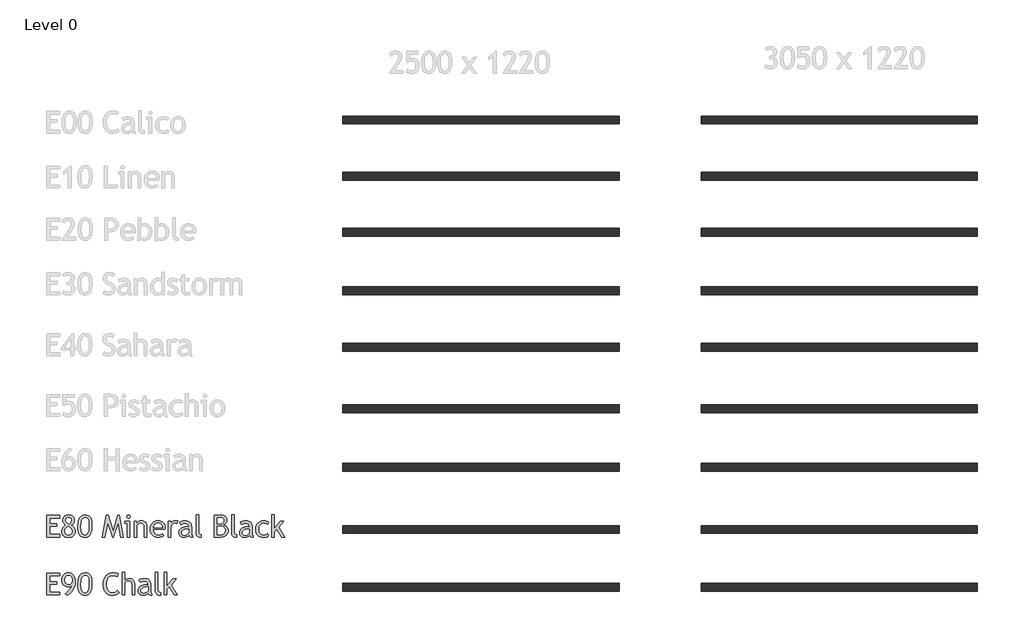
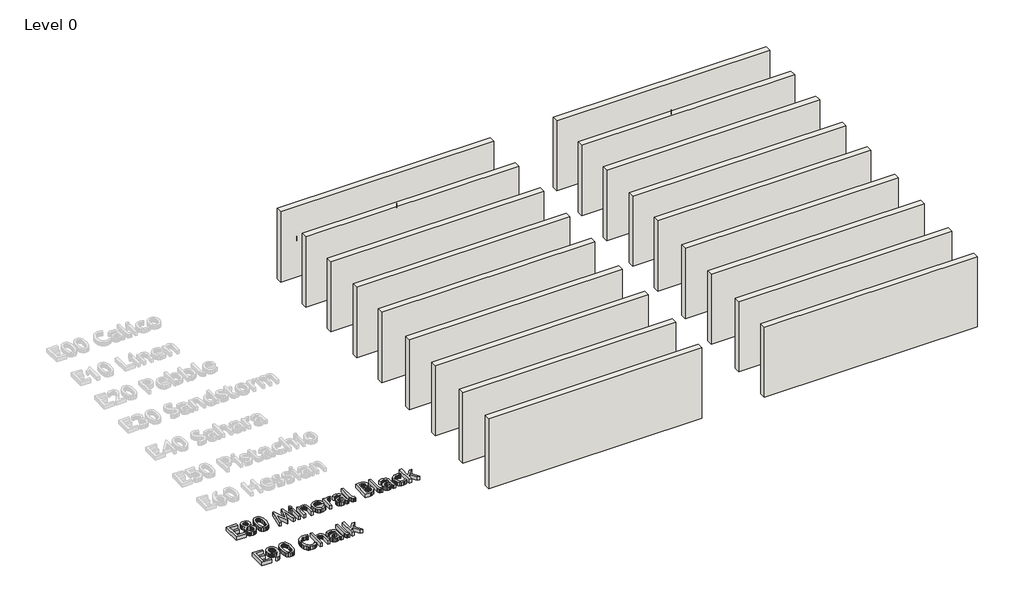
# One storey, part 1 of 5: 18 walls, 2 proxies.
"""IFC4 building model written with IfcOpenShell, lengths in millimetres."""

from ifc_helpers import new_model, si_unit, origin, origin_with_axes, place, context, project, spatial, polyline, outline, extrude, element, save

model = new_model("IFC4")

# Units and contexts
model_context = context("Model", 3, world=origin())
ifc_project = project(units=[si_unit("LENGTHUNIT", "METRE", prefix="MILLI")], contexts=[model_context])

# Site, building, storey
site = spatial("IfcSite", under=ifc_project)
building = spatial("IfcBuilding", under=site)
storey = spatial("IfcBuildingStorey", under=building, Name="Level 0", Elevation=0.0)

# Proxies
placement = place(None, origin())
element("IfcBuildingElementProxy", 1, Name="600mm Arial", ObjectType="600mm Arial", at=placement, inside=storey, context=model_context, shape_type="SweptSolid", body=[
    extrude(outline(polyline([(-18103.2260811, -7793.0220667), (-18103.2260811, -7970.9881684), (-17877.8023522, -7970.9881684), (-17877.8023522, -8054.0390158), (-18103.2260811, -8054.0390158), (-18103.2260811, -8303.1915582), (-17794.7515048, -8303.1915582), (-17794.7515048, -8386.2424056), (-18198.1413353, -8386.2424056), (-18198.1413353, -7709.9712192), (-17794.7515048, -7709.9712192), (-17794.7515048, -7793.0220667), (-18103.2260811, -7793.0220667)])), origin_with_axes(), (0.0, 0.0, 1.0), 150.0),
    extrude(outline(polyline([(-17569.327776, -8398.1068124), (-17616.7854031, -8350.6491853), (-17594.9625416, -8337.9273898), (-17568.6094232, -8315.7047997), (-17502.3124158, -8242.7572362), (-17468.8684606, -8199.3895852), (-17443.894116, -8161.2357849), (-17427.3893822, -8128.2958352), (-17419.354259, -8100.5697362), (-17440.1980752, -8116.5472918), (-17464.9117272, -8127.9598315), (-17493.4952151, -8134.8073553), (-17525.9485387, -8137.0898633), (-17568.499353, -8133.48072), (-17606.6126012, -8122.6532902), (-17640.2882831, -8104.6075738), (-17669.5263989, -8079.3435709), (-17693.1683149, -8047.7534292), (-17710.0553978, -8010.7292965), (-17720.1876475, -7968.2711729), (-17723.5650641, -7920.3790582), (-17720.1065432, -7872.7650155), (-17709.7309804, -7830.0288198), (-17692.4383758, -7792.1704711), (-17668.2287294, -7759.1899692), (-17638.8052323, -7732.4660881), (-17605.8710758, -7713.3776016), (-17569.4262598, -7701.9245097), (-17529.4707844, -7698.1068124), (-17477.6364194, -7702.7181737), (-17432.713303, -7716.5522573), (-17394.7014353, -7739.6090635), (-17363.6008162, -7771.8885921), (-17339.4114459, -7813.3908431), (-17322.1333242, -7864.1158167), (-17311.7664512, -7924.0635126), (-17308.3108268, -7993.2339311), (-17313.542057, -8054.9601294), (-17329.2357474, -8117.4162669), (-17355.3918981, -8180.6023434), (-17392.010509, -8244.518359), (-17434.480219, -8302.3283762), (-17478.1896669, -8347.1964575), (-17523.1388525, -8379.1226029), (-17569.327776, -8398.1068124)]), holes=[polyline([(-17403.2260811, -7922.9743972), (-17405.0741015, -7889.7360994), (-17410.6181626, -7860.9295746), (-17419.8582646, -7836.5548229), (-17432.7944073, -7816.6118442), (-17449.4265909, -7801.1006386), (-17469.7548152, -7790.021206), (-17493.7790803, -7783.3735464), (-17521.4993861, -7781.1576599), (-17545.031232, -7783.4691337), (-17565.9445662, -7790.403555), (-17584.2393888, -7801.9609239), (-17599.9156997, -7818.1412404), (-17612.4868729, -7838.1102883), (-17621.4662823, -7861.0338516), (-17626.853928, -7886.9119303), (-17628.6498099, -7915.7445243), (-17626.749651, -7945.6720269), (-17621.0491743, -7972.4248739), (-17611.5483798, -7996.0030651), (-17598.2472675, -8016.4066006), (-17581.9568808, -8032.8707822), (-17563.4882633, -8044.630912), (-17542.8414147, -8051.6869899), (-17520.0163353, -8054.0390158), (-17492.6436195, -8051.9911311), (-17468.9205991, -8045.8474771), (-17448.8472741, -8035.6080538), (-17432.4236446, -8021.2728612), (-17419.6497106, -8002.8418992), (-17410.5254719, -7980.3151678), (-17405.0509288, -7953.6926672), (-17403.2260811, -7922.9743972)])]), origin_with_axes(), (0.0, 0.0, 1.0), 150.0),
    extrude(outline(polyline([(-17225.2599794, -8028.8271514), (-17221.5581454, -7959.0716231), (-17210.4526436, -7896.0709279), (-17191.9434738, -7839.8250659), (-17166.0306361, -7790.334037), (-17133.4093107, -7749.9846262), (-17114.8436575, -7734.133072), (-17094.7746775, -7721.1636186), (-17073.2023705, -7711.0762659), (-17050.1267365, -7703.871014), (-16999.4654878, -7698.1068124), (-16949.5747304, -7702.9151413), (-16906.3113565, -7717.3401281), (-16869.675366, -7741.3817727), (-16839.666759, -7775.0400751), (-16816.3087082, -7820.6786477), (-16799.6243861, -7880.6611027), (-16789.6137929, -7954.9874401), (-16786.2769285, -8043.6576599), (-16789.7760016, -8121.7611424), (-16800.2732209, -8191.0821832), (-16817.7685864, -8251.6207822), (-16842.262098, -8303.3769395), (-16873.4872701, -8344.8212589), (-16891.5242968, -8361.1029558), (-16911.1776171, -8374.4243442), (-16932.4472311, -8384.785424), (-16955.3331388, -8392.1861954), (-17005.9538353, -8398.1068124), (-17056.6382566, -8393.3274493), (-17100.7995715, -8378.9893601), (-17138.4377799, -8355.0925447), (-17169.5528819, -8321.6370031), (-17182.6092329, -8300.3340784), (-17193.924737, -8274.6602089), (-17211.333205, -8210.1996355), (-17221.7782858, -8128.255283), (-17225.2599794, -8028.8271514)]), holes=[polyline([(-17130.3447251, -8037.3546938), (-17128.4996013, -8102.4409292), (-17122.9642299, -8158.8489999), (-17113.7386109, -8206.5789059), (-17100.8227442, -8245.6306472), (-17084.2166299, -8276.0042237), (-17063.920268, -8297.6996355), (-17039.9336585, -8310.7168826), (-17012.2568014, -8315.055965), (-16980.7477641, -8311.2093018), (-16953.6994656, -8299.6693124), (-16931.111906, -8280.4359967), (-16912.9850853, -8253.5093548), (-16899.0756904, -8216.9544687), (-16889.1404084, -8168.8364205), (-16883.1792392, -8109.1552102), (-16881.1921828, -8037.9108378), (-16884.2509751, -7945.7994766), (-16893.4273522, -7881.9124268), (-16909.4164942, -7838.2087722), (-16920.2265445, -7820.9103744), (-16932.9135811, -7806.6475963), (-16947.4428448, -7795.4957491), (-16963.7795768, -7787.530144), (-16981.923777, -7782.7507809), (-17001.8754455, -7781.1576599), (-17031.9854329, -7785.1607385), (-17058.0807553, -7797.1699745), (-17080.1614128, -7817.1853678), (-17098.2274052, -7845.2069184), (-17112.2787327, -7881.2346262), (-17122.3153951, -7925.2684914), (-17128.3373926, -7977.308514), (-17130.3447251, -8037.3546938)])]), origin_with_axes(), (0.0, 0.0, 1.0), 150.0),
    extrude(outline(polyline([(-15967.6328607, -7733.7000328), (-15999.7038353, -7813.0432531), (-16025.8889518, -7799.0933061), (-16058.6551065, -7789.1290582), (-16098.0022993, -7783.1505095), (-16143.9305302, -7781.1576599), (-16187.7152892, -7785.9544025), (-16226.9350323, -7800.3446302), (-16261.5897596, -7824.3283431), (-16291.6794709, -7857.9055412), (-16316.0107739, -7899.0486159), (-16333.390276, -7945.7299586), (-16343.8179772, -7997.9495693), (-16347.2938777, -8055.707448), (-16343.7716319, -8110.8062629), (-16333.2048946, -8160.4247414), (-16315.5936658, -8204.5628837), (-16290.9379455, -8243.2206895), (-16260.7091981, -8274.6486225), (-16226.3788883, -8297.0971461), (-16187.9470159, -8310.5662603), (-16145.4135811, -8315.055965), (-16099.5664545, -8310.6183988), (-16059.3502866, -8297.3057001), (-16024.7650774, -8275.1178691), (-15995.8108268, -8244.0549056), (-15943.9040472, -8315.055965), (-15987.5265975, -8351.3907107), (-16037.0118332, -8377.3441006), (-16092.3597543, -8392.9161345), (-16153.5703607, -8398.1068124), (-16217.1156136, -8392.1282637), (-16246.2161416, -8384.6550778), (-16273.5352707, -8374.1926175), (-16299.0730007, -8360.7408829), (-16322.8293319, -8344.2998739), (-16344.804264, -8324.8695905), (-16364.9977972, -8302.4500328), (-16398.7777561, -8250.8097388), (-16422.9062982, -8191.5456366), (-16437.3834235, -8124.6577261), (-16442.2091319, -8050.1460073), (-16437.0126608, -7977.6155518), (-16421.4232474, -7911.4807531), (-16395.4408917, -7851.7416112), (-16359.0655938, -7798.398126), (-16337.5222526, -7774.8923494), (-16314.4639982, -7754.5206763), (-16289.8908305, -7737.2831068), (-16263.8027495, -7723.1796408), (-16236.1997553, -7712.2102784), (-16207.0818477, -7704.3750195), (-16176.449027, -7699.6738642), (-16144.3012929, -7698.1068124), (-16090.9230487, -7700.3313887), (-16043.685562, -7707.0051175), (-16002.5888326, -7718.1279989), (-15967.6328607, -7733.7000328)])), origin_with_axes(), (0.0, 0.0, 1.0), 150.0),
    extrude(outline(polyline([(-15540.5142167, -8386.2424056), (-15540.5142167, -8068.8695243), (-15542.2811327, -8042.0992979), (-15547.5818808, -8018.3299321), (-15556.4164611, -7997.5614271), (-15568.7848734, -7979.7937828), (-15584.3627005, -7965.5599705), (-15602.8255249, -7955.3929618), (-15624.1733467, -7949.2927565), (-15648.4061658, -7947.2593548), (-15681.6126012, -7952.0329247), (-15714.8653819, -7966.3536345), (-15744.2714995, -7987.0236556), (-15765.9379455, -8010.8451599), (-15765.9379455, -8386.2424056), (-15848.9887929, -8386.2424056), (-15848.9887929, -7686.2424056), (-15765.9379455, -7686.2424056), (-15765.9379455, -7940.0294819), (-15742.7189306, -7915.0029989), (-15708.6551065, -7894.4256684), (-15668.5200429, -7880.6611027), (-15627.0873099, -7876.0729141), (-15589.5533785, -7879.3460537), (-15556.2948046, -7889.1654724), (-15527.3115882, -7905.5311702), (-15502.6037294, -7928.4431472), (-15482.8548218, -7957.0208418), (-15468.7484592, -7990.3836927), (-15460.2846417, -8028.5316999), (-15457.4633692, -8071.4648633), (-15457.4633692, -8386.2424056), (-15540.5142167, -8386.2424056)])), origin_with_axes(), (0.0, 0.0, 1.0), 150.0),
    extrude(outline(polyline([(-15034.423115, -8326.9203717), (-15065.3818014, -8358.0644395), (-15103.5703607, -8380.3102023), (-15148.9887929, -8393.6576599), (-15201.637098, -8398.1068124), (-15230.8462479, -8395.4187828), (-15258.0393755, -8387.3546938), (-15283.216481, -8373.9145455), (-15306.3775641, -8355.0983378), (-15325.7615021, -8332.2848447), (-15339.6071722, -8306.85284), (-15347.9145742, -8278.8023235), (-15350.6837082, -8248.1332955), (-15346.4025575, -8211.3350963), (-15333.5591054, -8177.5029989), (-15312.153352, -8146.6370031), (-15282.1852972, -8118.737109), (-15245.5782725, -8095.6223712), (-15204.2556097, -8079.1118442), (-15158.2173085, -8069.205528), (-15107.4633692, -8065.9034226), (-15076.7827548, -8068.8695243), (-15042.2091319, -8077.7678294), (-15043.9702548, -8049.960626), (-15049.2536234, -8025.8610497), (-15058.0592378, -8005.4691006), (-15070.387098, -7988.7847785), (-15086.2372039, -7975.8080836), (-15105.6095556, -7966.5390158), (-15128.5041531, -7960.9775751), (-15154.9209963, -7959.1237616), (-15195.7048946, -7961.3483378), (-15231.4834963, -7968.0220667), (-15262.2568014, -7979.144948), (-15288.0248099, -7994.7169819), (-15326.9548946, -7923.5305412), (-15296.4596616, -7905.4326864), (-15256.1392167, -7890.0692065), (-15211.8794179, -7879.5719872), (-15169.5661234, -7876.0729141), (-15118.1054177, -7879.1722587), (-15074.2105885, -7888.4702923), (-15037.8816359, -7903.967015), (-15009.1185599, -7925.6624268), (-14987.2609394, -7954.1010855), (-14971.6483533, -7989.8275487), (-14962.2808017, -8032.8418164), (-14959.1582844, -8083.1438887), (-14959.1582844, -8262.7784226), (-14956.9337082, -8292.9492383), (-14950.2599794, -8317.6513039), (-14939.137098, -8336.8846196), (-14923.5650641, -8350.6491853), (-14923.5650641, -8398.1068124), (-14967.4772728, -8393.9820773), (-14998.7372039, -8381.6078717), (-15020.1255779, -8359.6865264), (-15034.423115, -8326.9203717)]), holes=[polyline([(-15042.2091319, -8137.0898633), (-15105.0534116, -8137.0898633), (-15139.2794444, -8139.1985762), (-15170.2149582, -8145.524715), (-15197.8599529, -8156.0682796), (-15222.2144285, -8170.82927), (-15242.0849926, -8188.4752579), (-15256.2782527, -8207.6738145), (-15264.7942087, -8228.4249401), (-15267.6328607, -8250.7286345), (-15266.0976714, -8268.5860729), (-15261.4921033, -8284.0625195), (-15253.8161565, -8297.1579744), (-15243.0698311, -8307.8724374), (-15229.2531269, -8316.2059087), (-15212.366044, -8322.1583882), (-15169.3807421, -8326.9203717), (-15134.5290472, -8322.4712192), (-15101.7165472, -8309.1237616), (-15070.9432421, -8286.8779989), (-15042.2091319, -8255.7339311), (-15042.2091319, -8137.0898633)])]), origin_with_axes(), (0.0, 0.0, 1.0), 150.0),
    extrude(outline(polyline([(-14816.7854031, -8247.7625328), (-14816.7854031, -7686.2424056), (-14733.7345556, -7686.2424056), (-14733.7345556, -8229.5951599), (-14727.9877336, -8265.0725169), (-14720.8042061, -8279.6655055), (-14710.7472675, -8292.1613675), (-14698.373062, -8302.1777539), (-14684.2377336, -8309.3323156), (-14650.6837082, -8315.055965), (-14650.6837082, -8398.1068124), (-14689.6137929, -8395.7576831), (-14723.3531997, -8388.7102949), (-14751.9019285, -8376.9646481), (-14775.2599794, -8360.5207425), (-14793.4273522, -8339.3785782), (-14806.4040472, -8313.5381551), (-14814.1900641, -8282.9994733), (-14816.7854031, -8247.7625328)])), origin_with_axes(), (0.0, 0.0, 1.0), 150.0),
    extrude(outline(polyline([(-14223.5650641, -8386.2424056), (-14382.9930302, -8136.9044819), (-14460.8531997, -8216.4330836), (-14460.8531997, -8386.2424056), (-14543.9040472, -8386.2424056), (-14543.9040472, -7686.2424056), (-14460.8531997, -7686.2424056), (-14460.8531997, -8121.5178294), (-14271.0226912, -7887.9373209), (-14164.2430302, -7887.9373209), (-14325.1540472, -8077.2116853), (-14128.6498099, -8386.2424056), (-14223.5650641, -8386.2424056)])), origin_with_axes(), (0.0, 0.0, 1.0), 150.0),
])
element("IfcBuildingElementProxy", 2, Name="600mm Arial", ObjectType="600mm Arial", at=placement, inside=storey, context=model_context, shape_type="SweptSolid", body=[
    extrude(outline(polyline([(-18103.2260811, -5993.0220667), (-18103.2260811, -6170.9881684), (-17877.8023522, -6170.9881684), (-17877.8023522, -6254.0390158), (-18103.2260811, -6254.0390158), (-18103.2260811, -6503.1915582), (-17794.7515048, -6503.1915582), (-17794.7515048, -6586.2424056), (-18198.1413353, -6586.2424056), (-18198.1413353, -5909.9712192), (-17794.7515048, -5909.9712192), (-17794.7515048, -5993.0220667), (-18103.2260811, -5993.0220667)])), origin_with_axes(), (0.0, 0.0, 1.0), 150.0),
    extrude(outline(polyline([(-17602.140276, -6211.7720667), (-17641.2325694, -6184.0575539), (-17672.4925005, -6147.2593548), (-17684.4553912, -6126.4271249), (-17693.000313, -6105.2704777), (-17698.1272662, -6083.7894131), (-17699.8362505, -6061.9839311), (-17696.632629, -6026.1358114), (-17687.0217643, -5994.2270455), (-17671.0036565, -5966.2576334), (-17648.5783056, -5942.2275751), (-17621.0781401, -5922.9247414), (-17589.8355885, -5909.1370031), (-17554.8506507, -5900.8643601), (-17516.1233268, -5898.1068124), (-17474.7485254, -5900.8643601), (-17438.3095027, -5909.1370031), (-17406.8062585, -5922.9247414), (-17380.2387929, -5942.2275751), (-17359.1516637, -5966.2808061), (-17344.0894285, -5994.3197362), (-17335.0520874, -6026.3443654), (-17332.0396404, -6062.3546938), (-17333.8471086, -6084.7047335), (-17339.2695133, -6107.2633273), (-17348.3068544, -6130.030475), (-17360.9591319, -6153.0061768), (-17392.1958904, -6193.094895), (-17428.0671828, -6221.0411345), (-17399.9992868, -6238.8174685), (-17375.673777, -6257.9436106), (-17355.0906534, -6278.4195607), (-17338.2499158, -6300.2453188), (-17325.1515644, -6323.4208849), (-17315.7955991, -6347.9462589), (-17310.1820199, -6373.821441), (-17308.3108268, -6401.0464311), (-17311.8272794, -6445.312023), (-17322.3766372, -6484.3058325), (-17339.9589002, -6518.0278598), (-17364.5740683, -6546.4781048), (-17395.3184076, -6569.0656644), (-17431.2881838, -6585.1996355), (-17472.483397, -6594.8800182), (-17518.9040472, -6598.1068124), (-17566.871473, -6595.027744), (-17608.4432421, -6585.7905386), (-17643.6193544, -6570.3951963), (-17672.3998099, -6548.8417171), (-17694.7846086, -6521.130101), (-17710.7737505, -6487.2603479), (-17720.3672357, -6447.2324579), (-17723.5650641, -6401.0464311), (-17721.38104, -6372.7062563), (-17714.8289677, -6344.5978082), (-17703.9088472, -6316.7210868), (-17688.6206785, -6289.0760921), (-17670.1115088, -6263.597742), (-17649.5283851, -6242.2209544), (-17626.8713075, -6224.9457293), (-17602.140276, -6211.7720667)]), holes=[polyline([(-17489.4284116, -6183.5941006), (-17462.0962479, -6154.1416376), (-17442.5732739, -6124.179376), (-17430.8594894, -6093.7073156), (-17426.9548946, -6062.7254565), (-17428.5016703, -6045.0389165), (-17433.1419974, -6029.2409491), (-17440.8758758, -6015.3315542), (-17451.7033056, -6003.3107319), (-17464.9986248, -5993.6187629), (-17480.1361711, -5986.6959279), (-17515.9379455, -5981.1576599), (-17554.8680302, -5986.3135788), (-17570.1619921, -5992.7584775), (-17582.6752336, -6001.7813357), (-17592.4077548, -6013.3821534), (-17599.3595556, -6027.5609305), (-17604.9209963, -6063.6523633), (-17603.1164247, -6078.9086695), (-17597.7027098, -6094.0896646), (-17576.0478501, -6124.2257213), (-17539.9564174, -6154.0605333), (-17489.4284116, -6183.5941006)]), polyline([(-17527.6169709, -6251.4436768), (-17571.8188379, -6280.9888304), (-17603.3916001, -6315.3075539), (-17614.4420669, -6334.2570044), (-17622.3352574, -6354.3998474), (-17627.0711718, -6375.7360828), (-17628.6498099, -6398.2657107), (-17626.7380646, -6422.0988013), (-17621.0028289, -6443.9158696), (-17611.4441028, -6463.7169157), (-17598.0618861, -6481.5019395), (-17581.6440498, -6496.1818257), (-17562.9784645, -6506.6674586), (-17542.0651303, -6512.9588384), (-17518.9040472, -6515.055965), (-17494.8044709, -6513.0051837), (-17472.9294709, -6506.85284), (-17453.2790472, -6496.5989337), (-17435.8531997, -6482.243465), (-17421.5788353, -6464.6901678), (-17411.3828607, -6444.8427764), (-17405.265276, -6422.7012907), (-17403.2260811, -6398.2657107), (-17408.7643491, -6362.4407637), (-17425.3791531, -6328.7477023), (-17440.0764187, -6311.6810312), (-17462.0151436, -6293.1081366), (-17527.6169709, -6251.4436768)])]), origin_with_axes(), (0.0, 0.0, 1.0), 150.0),
    extrude(outline(polyline([(-17225.2599794, -6228.8271514), (-17221.5581454, -6159.0716231), (-17210.4526436, -6096.0709279), (-17191.9434738, -6039.8250659), (-17166.0306361, -5990.334037), (-17133.4093107, -5949.9846262), (-17114.8436575, -5934.133072), (-17094.7746775, -5921.1636186), (-17073.2023705, -5911.0762659), (-17050.1267365, -5903.871014), (-16999.4654878, -5898.1068124), (-16949.5747304, -5902.9151413), (-16906.3113565, -5917.3401281), (-16869.675366, -5941.3817727), (-16839.666759, -5975.0400751), (-16816.3087082, -6020.6786477), (-16799.6243861, -6080.6611027), (-16789.6137929, -6154.9874401), (-16786.2769285, -6243.6576599), (-16789.7760016, -6321.7611424), (-16800.2732209, -6391.0821832), (-16817.7685864, -6451.6207822), (-16842.262098, -6503.3769395), (-16873.4872701, -6544.8212589), (-16891.5242968, -6561.1029558), (-16911.1776171, -6574.4243442), (-16932.4472311, -6584.785424), (-16955.3331388, -6592.1861954), (-17005.9538353, -6598.1068124), (-17056.6382566, -6593.3274493), (-17100.7995715, -6578.9893601), (-17138.4377799, -6555.0925447), (-17169.5528819, -6521.6370031), (-17182.6092329, -6500.3340784), (-17193.924737, -6474.6602089), (-17211.333205, -6410.1996355), (-17221.7782858, -6328.255283), (-17225.2599794, -6228.8271514)]), holes=[polyline([(-17130.3447251, -6237.3546938), (-17128.4996013, -6302.4409292), (-17122.9642299, -6358.8489999), (-17113.7386109, -6406.5789059), (-17100.8227442, -6445.6306472), (-17084.2166299, -6476.0042237), (-17063.920268, -6497.6996355), (-17039.9336585, -6510.7168826), (-17012.2568014, -6515.055965), (-16980.7477641, -6511.2093018), (-16953.6994656, -6499.6693124), (-16931.111906, -6480.4359967), (-16912.9850853, -6453.5093548), (-16899.0756904, -6416.9544687), (-16889.1404084, -6368.8364205), (-16883.1792392, -6309.1552102), (-16881.1921828, -6237.9108378), (-16884.2509751, -6145.7994766), (-16893.4273522, -6081.9124268), (-16909.4164942, -6038.2087722), (-16920.2265445, -6020.9103744), (-16932.9135811, -6006.6475963), (-16947.4428448, -5995.4957491), (-16963.7795768, -5987.530144), (-16981.923777, -5982.7507809), (-17001.8754455, -5981.1576599), (-17031.9854329, -5985.1607385), (-17058.0807553, -5997.1699745), (-17080.1614128, -6017.1853678), (-17098.2274052, -6045.2069184), (-17112.2787327, -6081.2346262), (-17122.3153951, -6125.2684914), (-17128.3373926, -6177.308514), (-17130.3447251, -6237.3546938)])]), origin_with_axes(), (0.0, 0.0, 1.0), 150.0),
    extrude(outline(polyline([(-15896.44642, -6586.2424056), (-15973.5650641, -6147.2593548), (-16121.8701489, -6598.1068124), (-16145.5989624, -6598.1068124), (-16293.9040472, -6147.2593548), (-16382.887098, -6586.2424056), (-16465.9379455, -6586.2424056), (-16335.4294709, -5909.9712192), (-16287.9718438, -5909.9712192), (-16127.8023522, -6408.2763039), (-15991.3616743, -5909.9712192), (-15943.9040472, -5909.9712192), (-15813.3955726, -6586.2424056), (-15896.44642, -6586.2424056)])), origin_with_axes(), (0.0, 0.0, 1.0), 150.0),
    extrude(outline(polyline([(-15694.7515048, -6586.2424056), (-15694.7515048, -6159.1237616), (-15765.9379455, -6159.1237616), (-15765.9379455, -6087.9373209), (-15611.7006573, -6087.9373209), (-15611.7006573, -6586.2424056), (-15694.7515048, -6586.2424056)])), origin_with_axes(), (0.0, 0.0, 1.0), 150.0),
    extrude(outline(polyline([(-15653.4114624, -5898.1068124), (-15632.8109592, -5902.0229936), (-15615.5009751, -5913.771537), (-15603.7524317, -5930.9888304), (-15599.8362505, -5951.3112616), (-15603.7524317, -5971.9117648), (-15615.5009751, -5989.2217489), (-15632.8109592, -6000.9702923), (-15653.4114624, -6004.8864734), (-15673.7338936, -6000.9702923), (-15690.951187, -5989.2217489), (-15702.6997304, -5971.9117648), (-15706.6159116, -5951.3112616), (-15702.7460758, -5930.7571037), (-15691.1365683, -5913.5861556), (-15673.9656203, -5901.9766482), (-15653.4114624, -5898.1068124)])), origin_with_axes(), (0.0, 0.0, 1.0), 150.0),
    extrude(outline(polyline([(-15160.8531997, -6586.2424056), (-15160.8531997, -6292.4129565), (-15162.3999754, -6255.1165449), (-15167.0403025, -6223.8682001), (-15174.7741809, -6198.6679221), (-15185.6016107, -6179.5157107), (-15200.0671496, -6165.403555), (-15218.7153554, -6155.3234438), (-15241.546228, -6149.275377), (-15268.5597675, -6147.2593548), (-15300.4453607, -6151.8475434), (-15333.8140048, -6165.612109), (-15363.9848205, -6186.0967489), (-15386.2769285, -6210.8451599), (-15386.2769285, -6586.2424056), (-15469.327776, -6586.2424056), (-15469.327776, -6087.9373209), (-15409.449598, -6087.9373209), (-15381.6423946, -6151.8938887), (-15356.6043252, -6118.7222123), (-15324.683973, -6095.0281578), (-15285.8813379, -6080.811725), (-15240.19642, -6076.0729141), (-15202.1353104, -6079.2012245), (-15169.1490154, -6088.5861556), (-15141.237535, -6104.2277075), (-15118.4008692, -6126.1258802), (-15100.639018, -6154.2806737), (-15087.9519815, -6188.6920878), (-15080.3397596, -6229.3601228), (-15077.8023522, -6276.2847785), (-15077.8023522, -6586.2424056), (-15160.8531997, -6586.2424056)])), origin_with_axes(), (0.0, 0.0, 1.0), 150.0),
    extrude(outline(polyline([(-14515.3553183, -6348.95427), (-14876.107437, -6348.95427), (-14873.1181626, -6390.7809385), (-14864.1503395, -6427.4632743), (-14849.2039677, -6459.0012775), (-14828.2790472, -6485.394948), (-14805.5582447, -6503.5623209), (-14779.8481679, -6516.5390158), (-14751.1488168, -6524.3250328), (-14719.4601912, -6526.9203717), (-14683.1254455, -6523.95427), (-14649.9421828, -6515.055965), (-14619.9104031, -6500.2254565), (-14593.0301065, -6479.4627446), (-14555.7684539, -6538.7847785), (-14581.8145344, -6559.362109), (-14618.798115, -6576.9733378), (-14675.0613565, -6592.8234438), (-14737.4421828, -6598.1068124), (-14782.8374423, -6594.0863543), (-14824.6641107, -6582.0249798), (-14862.922188, -6561.922689), (-14897.6116743, -6533.7794819), (-14929.7289942, -6495.2317462), (-14952.669937, -6450.5895984), (-14966.4345027, -6399.8530386), (-14971.0226912, -6343.0220667), (-14966.307053, -6283.8158961), (-14952.1601383, -6230.7736556), (-14928.5819471, -6183.8953453), (-14895.5724794, -6143.180965), (-14860.2805037, -6113.8211927), (-14821.8833904, -6092.8499268), (-14780.3811393, -6080.2671673), (-14735.7737505, -6076.0729141), (-14684.9329137, -6079.9079909), (-14639.9315895, -6091.4132213), (-14600.7697781, -6110.5886053), (-14567.4474794, -6137.4341429), (-14541.5751939, -6169.3197362), (-14523.09499, -6206.0252446), (-14512.0068676, -6247.5506684), (-14508.3108268, -6293.8960073), (-14510.0719497, -6322.5837722), (-14515.3553183, -6348.95427)]), holes=[polyline([(-14729.1000217, -6147.2593548), (-14758.3671033, -6149.9010391), (-14785.1778819, -6157.8260921), (-14809.5323575, -6171.0345137), (-14831.4305302, -6189.5263039), (-14849.0301727, -6210.8683325), (-14862.3428713, -6234.6666641), (-14871.3686261, -6260.9212987), (-14876.107437, -6289.6322362), (-14591.3616743, -6289.6322362), (-14593.5167325, -6261.1993707), (-14599.9819073, -6235.2228082), (-14610.7571986, -6211.7025487), (-14625.8426065, -6190.6385921), (-14646.5473867, -6171.6601758), (-14670.6585493, -6158.1041641), (-14698.1760943, -6149.9705571), (-14729.1000217, -6147.2593548)])]), origin_with_axes(), (0.0, 0.0, 1.0), 150.0),
    extrude(outline(polyline([(-14153.8616743, -6167.2805412), (-14182.9202018, -6152.2646514), (-14212.2568014, -6147.2593548), (-14235.22671, -6149.9068323), (-14256.6788088, -6157.8492648), (-14276.6130977, -6171.0866522), (-14295.0295768, -6189.6189946), (-14310.4799542, -6211.8821368), (-14321.515938, -6236.3119237), (-14328.1375284, -6262.9083551), (-14330.3447251, -6291.6714311), (-14330.3447251, -6586.2424056), (-14413.3955726, -6586.2424056), (-14413.3955726, -6087.9373209), (-14330.3447251, -6087.9373209), (-14330.3447251, -6159.1237616), (-14303.0125615, -6122.7890158), (-14269.7713671, -6096.835626), (-14230.621142, -6081.2635921), (-14185.5618861, -6076.0729141), (-14116.7854031, -6084.0443124), (-14153.8616743, -6167.2805412)])), origin_with_axes(), (0.0, 0.0, 1.0), 150.0),
    extrude(outline(polyline([(-13764.9315895, -6526.9203717), (-13795.890276, -6558.0644395), (-13834.0788353, -6580.3102023), (-13879.4972675, -6593.6576599), (-13932.1455726, -6598.1068124), (-13961.3547225, -6595.4187828), (-13988.5478501, -6587.3546938), (-14013.7249555, -6573.9145455), (-14036.8860387, -6555.0983378), (-14056.2699767, -6532.2848447), (-14070.1156467, -6506.85284), (-14078.4230487, -6478.8023235), (-14081.1921828, -6448.1332955), (-14076.9110321, -6411.3350963), (-14064.06758, -6377.5029989), (-14042.6618266, -6346.6370031), (-14012.6937717, -6318.737109), (-13976.0867471, -6295.6223712), (-13934.7640842, -6279.1118442), (-13888.7257831, -6269.205528), (-13837.9718438, -6265.9034226), (-13807.2912294, -6268.8695243), (-13772.7176065, -6277.7678294), (-13774.4787294, -6249.960626), (-13779.762098, -6225.8610497), (-13788.5677124, -6205.4691006), (-13800.8955726, -6188.7847785), (-13816.7456785, -6175.8080836), (-13836.1180302, -6166.5390158), (-13859.0126277, -6160.9775751), (-13885.4294709, -6159.1237616), (-13926.2133692, -6161.3483378), (-13961.9919709, -6168.0220667), (-13992.765276, -6179.144948), (-14018.5332844, -6194.7169819), (-14057.4633692, -6123.5305412), (-14026.9681361, -6105.4326864), (-13986.6476912, -6090.0692065), (-13942.3878925, -6079.5719872), (-13900.074598, -6076.0729141), (-13848.6138922, -6079.1722587), (-13804.719063, -6088.4702923), (-13768.3901105, -6103.967015), (-13739.6270344, -6125.6624268), (-13717.769414, -6154.1010855), (-13702.1568279, -6189.8275487), (-13692.7892762, -6232.8418164), (-13689.666759, -6283.1438887), (-13689.666759, -6462.7784226), (-13687.4421828, -6492.9492383), (-13680.7684539, -6517.6513039), (-13669.6455726, -6536.8846196), (-13654.0735387, -6550.6491853), (-13654.0735387, -6598.1068124), (-13697.9857474, -6593.9820773), (-13729.2456785, -6581.6078717), (-13750.6340525, -6559.6865264), (-13764.9315895, -6526.9203717)]), holes=[polyline([(-13772.7176065, -6337.0898633), (-13835.5618861, -6337.0898633), (-13869.787919, -6339.1985762), (-13900.7234328, -6345.524715), (-13928.3684275, -6356.0682796), (-13952.7229031, -6370.82927), (-13972.5934672, -6388.4752579), (-13986.7867272, -6407.6738145), (-13995.3026833, -6428.4249401), (-13998.1413353, -6450.7286345), (-13996.6061459, -6468.5860729), (-13992.0005779, -6484.0625195), (-13984.3246311, -6497.1579744), (-13973.5783056, -6507.8724374), (-13959.7616015, -6516.2059087), (-13942.8745186, -6522.1583882), (-13899.8892167, -6526.9203717), (-13865.0375217, -6522.4712192), (-13832.2250217, -6509.1237616), (-13801.4517167, -6486.8779989), (-13772.7176065, -6455.7339311), (-13772.7176065, -6337.0898633)])]), origin_with_axes(), (0.0, 0.0, 1.0), 150.0),
    extrude(outline(polyline([(-13547.2938777, -6447.7625328), (-13547.2938777, -5886.2424056), (-13464.2430302, -5886.2424056), (-13464.2430302, -6429.5951599), (-13458.4962082, -6465.0725169), (-13451.3126806, -6479.6655055), (-13441.2557421, -6492.1613675), (-13428.8815366, -6502.1777539), (-13414.7462082, -6509.3323156), (-13381.1921828, -6515.055965), (-13381.1921828, -6598.1068124), (-13420.1222675, -6595.7576831), (-13453.8616743, -6588.7102949), (-13482.4104031, -6576.9646481), (-13505.7684539, -6560.5207425), (-13523.9358268, -6539.3785782), (-13536.9125217, -6513.5381551), (-13544.6985387, -6482.9994733), (-13547.2938777, -6447.7625328)])), origin_with_axes(), (0.0, 0.0, 1.0), 150.0),
    extrude(outline(polyline([(-12785.5618861, -6586.2424056), (-12977.8023522, -6586.2424056), (-12977.8023522, -5904.0390158), (-12798.3531997, -5898.1068124), (-12750.6059142, -5900.8180148), (-12708.5822781, -5908.9516217), (-12672.2822913, -5922.5076334), (-12641.7059539, -5941.4860497), (-12617.4557553, -5965.516108), (-12600.1341849, -5994.2270455), (-12589.7412426, -6027.6188622), (-12586.2769285, -6065.6915582), (-12588.5884023, -6088.806296), (-12595.5228236, -6110.8782637), (-12607.0801926, -6131.9074613), (-12623.260509, -6151.8938887), (-12642.2331322, -6169.5398765), (-12662.1674211, -6183.5477552), (-12683.0633758, -6193.9175248), (-12704.9209963, -6200.6491853), (-12667.3407196, -6212.0733114), (-12635.2407792, -6226.6952658), (-12608.6211751, -6244.5150487), (-12587.4819073, -6265.5326599), (-12571.3826952, -6290.1999666), (-12559.883258, -6318.9688357), (-12552.9835956, -6351.8392674), (-12550.6837082, -6388.8112616), (-12554.7505117, -6431.5822163), (-12566.9509222, -6469.7997414), (-12587.2849396, -6503.4638371), (-12615.7525641, -6532.5745031), (-12650.7664677, -6556.0542105), (-12690.7393226, -6572.82543), (-12735.6711287, -6582.8881617), (-12785.5618861, -6586.2424056)]), holes=[polyline([(-12882.887098, -5981.1576599), (-12882.887098, -6168.207448), (-12811.3298946, -6170.9881684), (-12780.8288684, -6169.383461), (-12754.3946457, -6164.5693389), (-12732.0272265, -6156.5458021), (-12713.7266107, -6145.3128506), (-12699.4927985, -6130.8704843), (-12689.3257897, -6113.2187033), (-12683.2255845, -6092.3575076), (-12681.1921828, -6068.2868972), (-12683.0604792, -6047.1273533), (-12688.6653687, -6028.789082), (-12698.0068511, -6013.2720832), (-12711.0849264, -6000.5763569), (-12727.8995947, -5990.7019031), (-12748.450856, -5983.6487218), (-12772.7387102, -5979.4168131), (-12800.7631573, -5978.0061768), (-12882.887098, -5981.1576599)]), polyline([(-12882.887098, -6244.3991853), (-12882.887098, -6510.4214311), (-12810.5883692, -6515.055965), (-12770.5633758, -6512.9588384), (-12736.3199635, -6506.6674586), (-12707.8581322, -6496.1818257), (-12685.1778819, -6481.5019395), (-12667.8621046, -6462.2454512), (-12655.4936923, -6438.0300116), (-12648.0726449, -6408.8556207), (-12645.5989624, -6374.7222785), (-12647.9567815, -6343.0162735), (-12655.0302389, -6315.7478347), (-12666.8193345, -6292.9169621), (-12683.3240683, -6274.5236556), (-12705.3438975, -6260.3709478), (-12733.6782792, -6250.2618707), (-12768.3272132, -6244.1964244), (-12809.2906997, -6242.174609), (-12882.887098, -6244.3991853)])]), origin_with_axes(), (0.0, 0.0, 1.0), 150.0),
    extrude(outline(polyline([(-12443.9040472, -6447.7625328), (-12443.9040472, -5886.2424056), (-12360.8531997, -5886.2424056), (-12360.8531997, -6429.5951599), (-12355.1063777, -6465.0725169), (-12347.9228501, -6479.6655055), (-12337.8659116, -6492.1613675), (-12325.4917061, -6502.1777539), (-12311.3563777, -6509.3323156), (-12277.8023522, -6515.055965), (-12277.8023522, -6598.1068124), (-12316.732437, -6595.7576831), (-12350.4718438, -6588.7102949), (-12379.0205726, -6576.9646481), (-12402.3786234, -6560.5207425), (-12420.5459963, -6539.3785782), (-12433.5226912, -6513.5381551), (-12441.3087082, -6482.9994733), (-12443.9040472, -6447.7625328)])), origin_with_axes(), (0.0, 0.0, 1.0), 150.0),
    extrude(outline(polyline([(-11878.4909116, -6526.9203717), (-11909.449598, -6558.0644395), (-11947.6381573, -6580.3102023), (-11993.0565895, -6593.6576599), (-12045.7048946, -6598.1068124), (-12074.9140445, -6595.4187828), (-12102.1071722, -6587.3546938), (-12127.2842776, -6573.9145455), (-12150.4453607, -6555.0983378), (-12169.8292987, -6532.2848447), (-12183.6749688, -6506.85284), (-12191.9823708, -6478.8023235), (-12194.7515048, -6448.1332955), (-12190.4703541, -6411.3350963), (-12177.626902, -6377.5029989), (-12156.2211486, -6346.6370031), (-12126.2530938, -6318.737109), (-12089.6460691, -6295.6223712), (-12048.3234063, -6279.1118442), (-12002.2851052, -6269.205528), (-11951.5311658, -6265.9034226), (-11920.8505514, -6268.8695243), (-11886.2769285, -6277.7678294), (-11888.0380514, -6249.960626), (-11893.32142, -6225.8610497), (-11902.1270344, -6205.4691006), (-11914.4548946, -6188.7847785), (-11930.3050005, -6175.8080836), (-11949.6773522, -6166.5390158), (-11972.5719497, -6160.9775751), (-11998.9887929, -6159.1237616), (-12039.7726912, -6161.3483378), (-12075.5512929, -6168.0220667), (-12106.324598, -6179.144948), (-12132.0926065, -6194.7169819), (-12171.0226912, -6123.5305412), (-12140.5274582, -6105.4326864), (-12100.2070133, -6090.0692065), (-12055.9472145, -6079.5719872), (-12013.63392, -6076.0729141), (-11962.1732143, -6079.1722587), (-11918.2783851, -6088.4702923), (-11881.9494325, -6103.967015), (-11853.1863565, -6125.6624268), (-11831.328736, -6154.1010855), (-11815.7161499, -6189.8275487), (-11806.3485983, -6232.8418164), (-11803.2260811, -6283.1438887), (-11803.2260811, -6462.7784226), (-11801.0015048, -6492.9492383), (-11794.327776, -6517.6513039), (-11783.2048946, -6536.8846196), (-11767.6328607, -6550.6491853), (-11767.6328607, -6598.1068124), (-11811.5450694, -6593.9820773), (-11842.8050005, -6581.6078717), (-11864.1933745, -6559.6865264), (-11878.4909116, -6526.9203717)]), holes=[polyline([(-11886.2769285, -6337.0898633), (-11949.1212082, -6337.0898633), (-11983.347241, -6339.1985762), (-12014.2827548, -6345.524715), (-12041.9277495, -6356.0682796), (-12066.2822251, -6370.82927), (-12086.1527892, -6388.4752579), (-12100.3460493, -6407.6738145), (-12108.8620053, -6428.4249401), (-12111.7006573, -6450.7286345), (-12110.165468, -6468.5860729), (-12105.5598999, -6484.0625195), (-12097.8839531, -6497.1579744), (-12087.1376277, -6507.8724374), (-12073.3209235, -6516.2059087), (-12056.4338406, -6522.1583882), (-12013.4485387, -6526.9203717), (-11978.5968438, -6522.4712192), (-11945.7843438, -6509.1237616), (-11915.0110387, -6486.8779989), (-11886.2769285, -6455.7339311), (-11886.2769285, -6337.0898633)])]), origin_with_axes(), (0.0, 0.0, 1.0), 150.0),
    extrude(outline(polyline([(-11281.1921828, -6123.5305412), (-11325.6837082, -6182.8525751), (-11344.5230885, -6170.4088516), (-11373.9755514, -6158.6603082), (-11408.4333109, -6150.1095931), (-11442.2885811, -6147.2593548), (-11477.0128263, -6150.5151149), (-11507.9599264, -6160.282395), (-11535.1298814, -6176.5611954), (-11558.5226912, -6199.3515158), (-11577.3388989, -6227.8075539), (-11590.7790472, -6261.0835073), (-11598.8431361, -6299.179376), (-11601.5311658, -6342.0951599), (-11598.8083771, -6384.5474904), (-11590.6400111, -6421.6237616), (-11577.0260678, -6453.3239734), (-11557.9665472, -6479.648126), (-11534.0755249, -6500.3297335), (-11505.9670768, -6515.1023103), (-11473.6412029, -6523.9658564), (-11437.0979031, -6526.9203717), (-11407.0892961, -6523.95427), (-11376.9416531, -6515.055965), (-11346.6549741, -6500.2254565), (-11316.229259, -6479.4627446), (-11281.1921828, -6550.6491853), (-11319.2880514, -6571.4118972), (-11361.6476912, -6586.2424056), (-11408.2711022, -6595.1407107), (-11459.1582844, -6598.1068124), (-11508.3712413, -6593.7909027), (-11553.1234592, -6580.8431737), (-11593.4149383, -6559.2636252), (-11629.2456785, -6529.0522573), (-11658.6460029, -6491.4719806), (-11679.6462347, -6447.7857054), (-11692.2463737, -6397.9934319), (-11696.44642, -6342.0951599), (-11692.0551992, -6284.9050116), (-11678.8815366, -6233.6470667), (-11656.9254322, -6188.3213251), (-11626.1868861, -6148.927787), (-11587.8245318, -6117.0537801), (-11542.9970027, -6094.2866323), (-11491.7042987, -6080.6263437), (-11433.94642, -6076.0729141), (-11393.000313, -6079.9427499), (-11348.763687, -6091.5522573), (-11308.9298681, -6107.2864999), (-11281.1921828, -6123.5305412)])), origin_with_axes(), (0.0, 0.0, 1.0), 150.0),
    extrude(outline(polyline([(-10877.8023522, -6586.2424056), (-11037.2303183, -6336.9044819), (-11115.0904878, -6416.4330836), (-11115.0904878, -6586.2424056), (-11198.1413353, -6586.2424056), (-11198.1413353, -5886.2424056), (-11115.0904878, -5886.2424056), (-11115.0904878, -6321.5178294), (-10925.2599794, -6087.9373209), (-10818.4803183, -6087.9373209), (-10979.3913353, -6277.2116853), (-10782.887098, -6586.2424056), (-10877.8023522, -6586.2424056)])), origin_with_axes(), (0.0, 0.0, 1.0), 150.0),
])

# Walls
element("IfcWall", 3, ObjectType="Tectiva E00 2500 x 1220 TB", at=placement, inside=storey, context=model_context, shape_type="SweptSolid", body=[
    extrude(outline(polyline([(-8978.7836246, 6514.2552024), (-378.7836246, 6514.2552024), (-378.7836246, 6268.2552024), (-8978.7836246, 6268.2552024), (-8978.7836246, 6514.2552024)])), origin_with_axes(), (0.0, 0.0, 1.0), 3000.0),
])
element("IfcWall", 4, ObjectType="Tectiva E10 2500 x 1220 TB", at=placement, inside=storey, context=model_context, shape_type="SweptSolid", body=[
    extrude(outline(polyline([(-378.7836246, 4520.2552024), (-8978.7836246, 4520.2552024), (-8978.7836246, 4766.2552024), (-378.7836246, 4766.2552024), (-378.7836246, 4520.2552024)])), origin_with_axes(), (0.0, 0.0, 1.0), 3000.0),
])
element("IfcWall", 5, ObjectType="Tectiva E20 2500 x 1220 TB", at=placement, inside=storey, context=model_context, shape_type="SweptSolid", body=[
    extrude(outline(polyline([(-378.7836246, 2772.2552024), (-8978.7836246, 2772.2552024), (-8978.7836246, 3018.2552024), (-378.7836246, 3018.2552024), (-378.7836246, 2772.2552024)])), origin_with_axes(), (0.0, 0.0, 1.0), 3000.0),
])
element("IfcWall", 6, ObjectType="Tectiva E30 2500 x 1220 TB", at=placement, inside=storey, context=model_context, shape_type="SweptSolid", body=[
    extrude(outline(polyline([(-378.7836246, 949.2552024), (-8978.7836246, 949.2552024), (-8978.7836246, 1195.2552024), (-378.7836246, 1195.2552024), (-378.7836246, 949.2552024)])), origin_with_axes(), (0.0, 0.0, 1.0), 3000.0),
])
element("IfcWall", 7, ObjectType="Tectiva E40 2500 x 1220 TB", at=placement, inside=storey, context=model_context, shape_type="SweptSolid", body=[
    extrude(outline(polyline([(-8978.7836246, -550.7447976), (-378.7836246, -550.7447976), (-378.7836246, -796.7447976), (-8978.7836246, -796.7447976), (-8978.7836246, -550.7447976)])), origin_with_axes(), (0.0, 0.0, 1.0), 3000.0),
])
element("IfcWall", 8, ObjectType="Tectiva E50 2500 x 1220 TB", at=placement, inside=storey, context=model_context, shape_type="SweptSolid", body=[
    extrude(outline(polyline([(-8978.7836246, -2473.7447976), (-378.7836246, -2473.7447976), (-378.7836246, -2719.7447976), (-8978.7836246, -2719.7447976), (-8978.7836246, -2473.7447976)])), origin_with_axes(), (0.0, 0.0, 1.0), 3000.0),
])
element("IfcWall", 9, ObjectType="Tectiva E60 2500 x 1220 TB", at=placement, inside=storey, context=model_context, shape_type="SweptSolid", body=[
    extrude(outline(polyline([(-8978.7836246, -4296.7447976), (-378.7836246, -4296.7447976), (-378.7836246, -4542.7447976), (-8978.7836246, -4542.7447976), (-8978.7836246, -4296.7447976)])), origin_with_axes(), (0.0, 0.0, 1.0), 3000.0),
])
element("IfcWall", 10, ObjectType="Tectiva E90 2500 x 1220 TB", at=placement, inside=storey, context=model_context, shape_type="SweptSolid", body=[
    extrude(outline(polyline([(-8978.7836246, -8028.3373841), (-378.7836246, -8028.3373841), (-378.7836246, -8274.3373841), (-8978.7836246, -8274.3373841), (-8978.7836246, -8028.3373841)])), origin_with_axes(), (0.0, 0.0, 1.0), 3000.0),
])
element("IfcWall", 11, ObjectType="Tectiva E00 3050 x 1220 TB", at=placement, inside=storey, context=model_context, shape_type="SweptSolid", body=[
    extrude(outline(polyline([(10762.2394784, 6268.2552024), (2162.2394784, 6268.2552024), (2162.2394784, 6514.2552024), (10762.2394784, 6514.2552024), (10762.2394784, 6268.2552024)])), origin_with_axes(), (0.0, 0.0, 1.0), 3000.0),
])
element("IfcWall", 12, ObjectType="Tectiva E10 3050 x 1220 TB", at=placement, inside=storey, context=model_context, shape_type="SweptSolid", body=[
    extrude(outline(polyline([(10762.2394784, 4520.2552024), (2162.2394784, 4520.2552024), (2162.2394784, 4766.2552024), (10762.2394784, 4766.2552024), (10762.2394784, 4520.2552024)])), origin_with_axes(), (0.0, 0.0, 1.0), 3000.0),
])
element("IfcWall", 13, ObjectType="Tectiva E20 3050 x 1220 TB", at=placement, inside=storey, context=model_context, shape_type="SweptSolid", body=[
    extrude(outline(polyline([(10762.2394784, 2772.2552024), (2162.2394784, 2772.2552024), (2162.2394784, 3018.2552024), (10762.2394784, 3018.2552024), (10762.2394784, 2772.2552024)])), origin_with_axes(), (0.0, 0.0, 1.0), 3000.0),
])
element("IfcWall", 14, ObjectType="Tectiva E30 3050 x 1220 TB", at=placement, inside=storey, context=model_context, shape_type="SweptSolid", body=[
    extrude(outline(polyline([(10762.2394784, 949.2552024), (2162.2394784, 949.2552024), (2162.2394784, 1195.2552024), (10762.2394784, 1195.2552024), (10762.2394784, 949.2552024)])), origin_with_axes(), (0.0, 0.0, 1.0), 3000.0),
])
element("IfcWall", 15, ObjectType="Tectiva E40 3050 x 1220 TB", at=placement, inside=storey, context=model_context, shape_type="SweptSolid", body=[
    extrude(outline(polyline([(10762.2394784, -796.7447976), (2162.2394784, -796.7447976), (2162.2394784, -550.7447976), (10762.2394784, -550.7447976), (10762.2394784, -796.7447976)])), origin_with_axes(), (0.0, 0.0, 1.0), 3000.0),
])
element("IfcWall", 16, ObjectType="Tectiva E50 3050 x 1220 TB", at=placement, inside=storey, context=model_context, shape_type="SweptSolid", body=[
    extrude(outline(polyline([(10762.2394784, -2719.7447976), (2162.2394784, -2719.7447976), (2162.2394784, -2473.7447976), (10762.2394784, -2473.7447976), (10762.2394784, -2719.7447976)])), origin_with_axes(), (0.0, 0.0, 1.0), 3000.0),
])
element("IfcWall", 17, ObjectType="Tectiva E60 3050 x 1220 TB", at=placement, inside=storey, context=model_context, shape_type="SweptSolid", body=[
    extrude(outline(polyline([(10762.2394784, -4542.7447976), (2162.2394784, -4542.7447976), (2162.2394784, -4296.7447976), (10762.2394784, -4296.7447976), (10762.2394784, -4542.7447976)])), origin_with_axes(), (0.0, 0.0, 1.0), 3000.0),
])
element("IfcWall", 18, ObjectType="Tectiva E90 3050 x 1220 TB", at=placement, inside=storey, context=model_context, shape_type="SweptSolid", body=[
    extrude(outline(polyline([(10762.2394784, -8274.3373841), (2162.2394784, -8274.3373841), (2162.2394784, -8028.3373841), (10762.2394784, -8028.3373841), (10762.2394784, -8274.3373841)])), origin_with_axes(), (0.0, 0.0, 1.0), 3000.0),
])
element("IfcWall", 19, ObjectType="Tectiva E80 2500 x 1220 TB", at=placement, inside=storey, context=model_context, shape_type="SweptSolid", body=[
    extrude(outline(polyline([(-8978.7836246, -6228.3373841), (-378.7836246, -6228.3373841), (-378.7836246, -6474.3373841), (-8978.7836246, -6474.3373841), (-8978.7836246, -6228.3373841)])), origin_with_axes(), (0.0, 0.0, 1.0), 3000.0),
])
element("IfcWall", 20, ObjectType="Tectiva E80 3050 x 1220 TB", at=placement, inside=storey, context=model_context, shape_type="SweptSolid", body=[
    extrude(outline(polyline([(10762.2394784, -6474.3373841), (2162.2394784, -6474.3373841), (2162.2394784, -6228.3373841), (10762.2394784, -6228.3373841), (10762.2394784, -6474.3373841)])), origin_with_axes(), (0.0, 0.0, 1.0), 3000.0),
])

save(model, "model.ifc")
